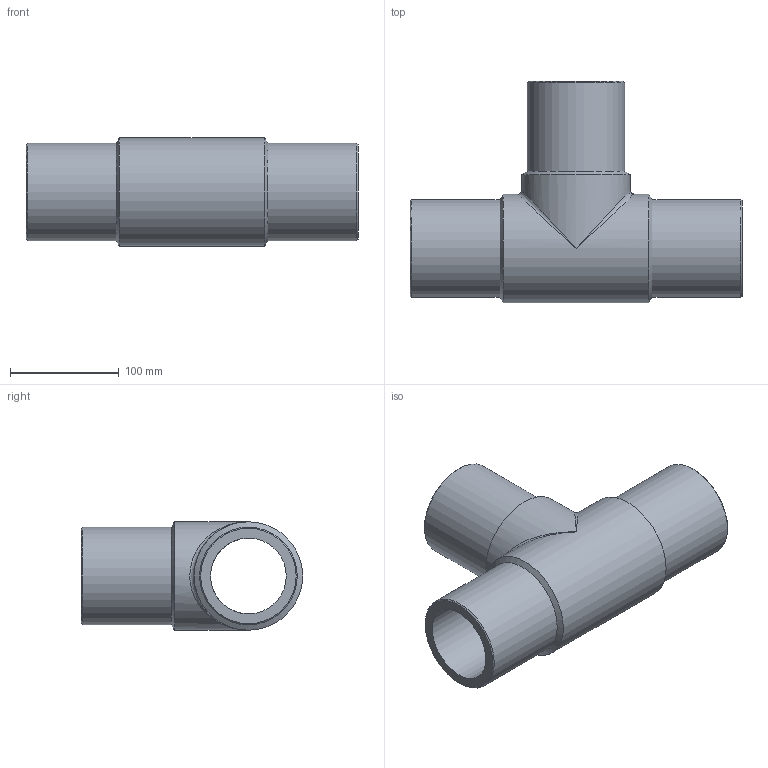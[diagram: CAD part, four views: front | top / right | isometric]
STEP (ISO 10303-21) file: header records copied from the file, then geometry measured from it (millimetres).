
FILE_DESCRIPTION(/* description */ ('Unknown'),/* implementation_level */ '2;1');
FILE_NAME(/* name */ 'TP090G',/* time_stamp */ '2021-08-12T17:47:51+02:00',/* author */ ('Unknown'),/* organization */ ('Unknown'),/* preprocessor_version */ 'ST-DEVELOPER v16.7',/* originating_system */ 'Solid Edge',/* authorisation */ 'Unknown');
FILE_SCHEMA (('AUTOMOTIVE_DESIGN {1 0 10303 214 3 1 1}'));
Length unit declared in the file: millimetre
Products named in the file (1): TP090G
Bounding box: 306 x 204 x 100 mm (x, y, z)
Volume: 1254283.5 mm3; surface area: 217109.1 mm2
Topology: 1 solids, 1 shells, 18 faces, 44 edges, 23 vertices
Faces by surface type: cylinder 7, cone 6, plane 3, bspline 2
Full cylindrical faces by diameter (mm): 69.8 x2, 90 x3, 100 x2
Entity records: 504 total; most frequent: CARTESIAN_POINT 147, DIRECTION 76, ORIENTED_EDGE 42, AXIS2_PLACEMENT_3D 38, EDGE_LOOP 36, FACE_BOUND 36, EDGE_CURVE 21, VERTEX_POINT 19
